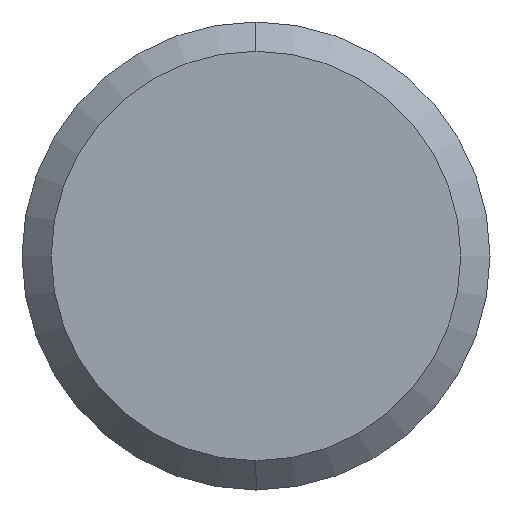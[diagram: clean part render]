
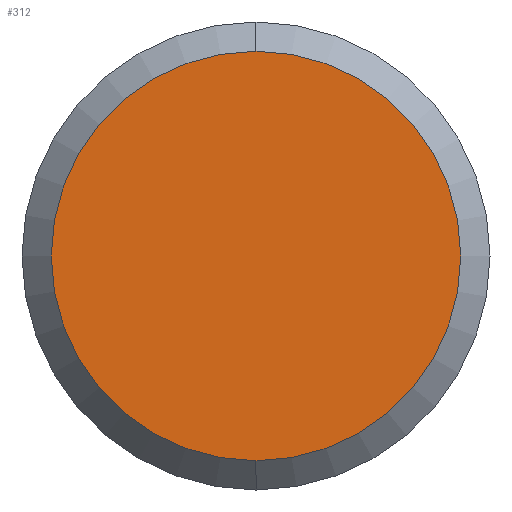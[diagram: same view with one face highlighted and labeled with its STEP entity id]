
A CAD part, left-side view. The second image highlights one B-rep face of the part: STEP entity #312.
In plain terms, the highlighted planar face has unit normal (-1, 0, 0).
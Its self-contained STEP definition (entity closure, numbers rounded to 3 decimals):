
#41 = FACE_OUTER_BOUND ( 'NONE', #366, .T. ) ;
#45 = DIRECTION ( 'NONE',  ( 0., 0., 1. ) ) ;
#49 = AXIS2_PLACEMENT_3D ( 'NONE', #151, #148, #108 ) ;
#65 = CARTESIAN_POINT ( 'NONE',  ( 0., 0., -7. ) ) ;
#75 = VERTEX_POINT ( 'NONE', #65 ) ;
#80 = CIRCLE ( 'NONE', #188, 7. ) ;
#91 = VERTEX_POINT ( 'NONE', #333 ) ;
#94 = DIRECTION ( 'NONE',  ( 1., 0., 0. ) ) ;
#96 = AXIS2_PLACEMENT_3D ( 'NONE', #186, #94, #413 ) ;
#108 = DIRECTION ( 'NONE',  ( 0., 0., 1. ) ) ;
#148 = DIRECTION ( 'NONE',  ( -1., 0., 0. ) ) ;
#151 = CARTESIAN_POINT ( 'NONE',  ( 0., 0., 0. ) ) ;
#163 = EDGE_CURVE ( 'NONE', #75, #91, #80, .T. ) ;
#167 = ORIENTED_EDGE ( 'NONE', *, *, #163, .T. ) ;
#186 = CARTESIAN_POINT ( 'NONE',  ( 0., 0., 0. ) ) ;
#188 = AXIS2_PLACEMENT_3D ( 'NONE', #415, #348, #45 ) ;
#210 = PLANE ( 'NONE',  #96 ) ;
#307 = EDGE_CURVE ( 'NONE', #91, #75, #344, .T. ) ;
#312 = ADVANCED_FACE ( 'NONE', ( #41 ), #210, .F. ) ;
#333 = CARTESIAN_POINT ( 'NONE',  ( 0., 0., 7. ) ) ;
#344 = CIRCLE ( 'NONE', #49, 7. ) ;
#347 = ORIENTED_EDGE ( 'NONE', *, *, #307, .T. ) ;
#348 = DIRECTION ( 'NONE',  ( -1., 0., 0. ) ) ;
#366 = EDGE_LOOP ( 'NONE', ( #347, #167 ) ) ;
#413 = DIRECTION ( 'NONE',  ( 0., 0., -1. ) ) ;
#415 = CARTESIAN_POINT ( 'NONE',  ( 0., 0., 0. ) ) ;
